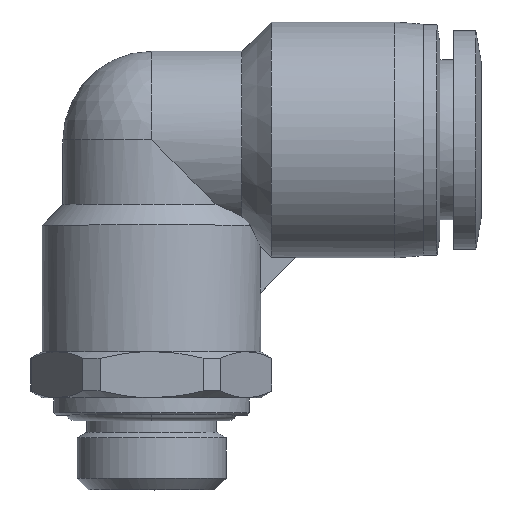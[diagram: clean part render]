
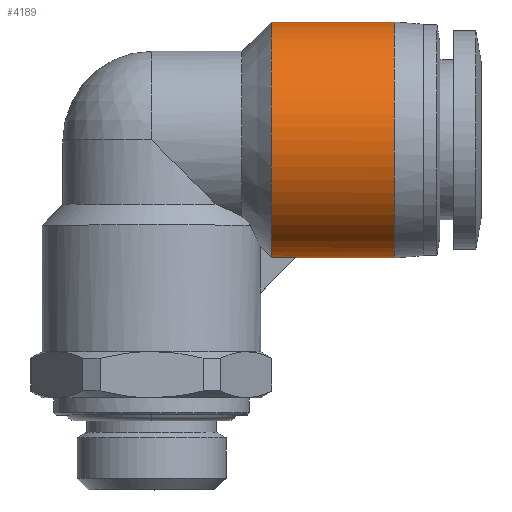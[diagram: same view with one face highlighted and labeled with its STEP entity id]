
A CAD part, top view. The second image highlights one B-rep face of the part: STEP entity #4189.
In plain terms, the highlighted cylindrical face has radius 10.25 mm (diameter 20.5 mm), a partial arc.
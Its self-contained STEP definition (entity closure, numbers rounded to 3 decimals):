
#178 = LINE ( 'NONE', #878, #3115 ) ;
#307 = CARTESIAN_POINT ( 'NONE',  ( 10.4, 8.199, 1. ) ) ;
#335 = CARTESIAN_POINT ( 'NONE',  ( 10.4, 9.898, 5.871 ) ) ;
#352 = CARTESIAN_POINT ( 'NONE',  ( 10.4, 26.719, 6.127 ) ) ;
#438 = FACE_OUTER_BOUND ( 'NONE', #2538, .T. ) ;
#565 = CARTESIAN_POINT ( 'NONE',  ( 21.1, 24.699, 8.197 ) ) ;
#625 = CARTESIAN_POINT ( 'NONE',  ( 10.4, 28.4, 2.6 ) ) ;
#707 = VERTEX_POINT ( 'NONE', #3924 ) ;
#727 = VERTEX_POINT ( 'NONE', #2043 ) ;
#859 = VERTEX_POINT ( 'NONE', #4524 ) ;
#878 = CARTESIAN_POINT ( 'NONE',  ( 15.75, 8.15, 0. ) ) ;
#1029 = CARTESIAN_POINT ( 'NONE',  ( 21.1, 8.15, 1.342 ) ) ;
#1055 = CARTESIAN_POINT ( 'NONE',  ( 10.4, 23.849, 8.779 ) ) ;
#1074 = CARTESIAN_POINT ( 'NONE',  ( 21.1, 8.417, 2.683 ) ) ;
#1141 = CARTESIAN_POINT ( 'NONE',  ( 10.4, 8.702, 3.563 ) ) ;
#1279 = CARTESIAN_POINT ( 'NONE',  ( 21.1, 21.083, 9.983 ) ) ;
#1299 = VERTEX_POINT ( 'NONE', #3517 ) ;
#1305 = CARTESIAN_POINT ( 'NONE',  ( 21.1, 10.203, 6.299 ) ) ;
#1384 = CARTESIAN_POINT ( 'NONE',  ( 10.4, 27.434, 5.014 ) ) ;
#1397 = CARTESIAN_POINT ( 'NONE',  ( 11.116, 8.199, 1. ) ) ;
#1408 = CARTESIAN_POINT ( 'NONE',  ( 10.4, 12.686, 8.609 ) ) ;
#1429 = CARTESIAN_POINT ( 'NONE',  ( 10.4, 21.485, 9.861 ) ) ;
#1451 = CARTESIAN_POINT ( 'NONE',  ( 10.4, 13.834, 9.268 ) ) ;
#1492 = CARTESIAN_POINT ( 'NONE',  ( 12.5, 8.15, 0.333 ) ) ;
#1543 = CYLINDRICAL_SURFACE ( 'NONE', #2458, 10.25 ) ;
#1613 = CARTESIAN_POINT ( 'NONE',  ( 21.1, 28.65, 1.342 ) ) ;
#1635 = CARTESIAN_POINT ( 'NONE',  ( 21.1, 28.383, 2.683 ) ) ;
#1659 = CARTESIAN_POINT ( 'NONE',  ( 21.1, 15.717, 9.983 ) ) ;
#1735 = CARTESIAN_POINT ( 'NONE',  ( 21.1, 8.15, 0. ) ) ;
#1753 = CARTESIAN_POINT ( 'NONE',  ( 10.4, 28.65, 0. ) ) ;
#1765 = CARTESIAN_POINT ( 'NONE',  ( 10.4, 16.292, 10.115 ) ) ;
#1769 = CARTESIAN_POINT ( 'NONE',  ( 15.75, 28.65, 0. ) ) ;
#1792 = CARTESIAN_POINT ( 'NONE',  ( 10.4, 8.326, 2.294 ) ) ;
#1821 = CARTESIAN_POINT ( 'NONE',  ( 11.833, 8.199, 1. ) ) ;
#1988 = EDGE_CURVE ( 'NONE', #2388, #1299, #2030, .T. ) ;
#2016 = EDGE_CURVE ( 'NONE', #727, #859, #2547, .T. ) ;
#2030 = B_SPLINE_CURVE_WITH_KNOTS ( 'NONE', 3,
 ( #3890, #4615, #625, #1384, #352, #4377, #1055, #1429, #3606, #3244, #1765, #1451, #1408, #3669, #335, #1141, #1792, #307 ),
 .UNSPECIFIED., .F., .F.,
 ( 4, 2, 2, 2, 2, 2, 2, 2, 4 ),
 ( 0.5, 0.563, 0.625, 0.688, 0.75, 0.813, 0.875, 0.938, 1. ),
 .UNSPECIFIED. ) ;
#2036 = ORIENTED_EDGE ( 'NONE', *, *, #2016, .F. ) ;
#2043 = CARTESIAN_POINT ( 'NONE',  ( 12.5, 8.15, 0. ) ) ;
#2133 = CARTESIAN_POINT ( 'NONE',  ( 12.5, 8.15, 0. ) ) ;
#2139 = VECTOR ( 'NONE', #4270, 1000. ) ;
#2388 = VERTEX_POINT ( 'NONE', #1753 ) ;
#2424 = EDGE_CURVE ( 'NONE', #859, #1299, #2619, .T. ) ;
#2458 = AXIS2_PLACEMENT_3D ( 'NONE', #2671, #3309, #3355 ) ;
#2493 = ORIENTED_EDGE ( 'NONE', *, *, #3090, .F. ) ;
#2538 = EDGE_LOOP ( 'NONE', ( #2036, #2650, #3230, #2493, #3790, #4557 ) ) ;
#2547 = B_SPLINE_CURVE_WITH_KNOTS ( 'NONE', 3,
 ( #2133, #1492, #4399, #3578 ),
 .UNSPECIFIED., .F., .F.,
 ( 4, 4 ),
 ( 0.5, 1. ),
 .UNSPECIFIED. ) ;
#2619 = B_SPLINE_CURVE_WITH_KNOTS ( 'NONE', 3,
 ( #4627, #1821, #1397, #3211 ),
 .UNSPECIFIED., .F., .F.,
 ( 4, 4 ),
 ( 0., 1. ),
 .UNSPECIFIED. ) ;
#2650 = ORIENTED_EDGE ( 'NONE', *, *, #3235, .T. ) ;
#2671 = CARTESIAN_POINT ( 'NONE',  ( 15.75, 18.4, 0. ) ) ;
#2721 = CARTESIAN_POINT ( 'NONE',  ( 21.1, 23.562, 8.956 ) ) ;
#2744 = CARTESIAN_POINT ( 'NONE',  ( 21.1, 19.742, 10.25 ) ) ;
#3056 = VERTEX_POINT ( 'NONE', #3559 ) ;
#3090 = EDGE_CURVE ( 'NONE', #2388, #707, #3584, .T. ) ;
#3115 = VECTOR ( 'NONE', #3785, 1000. ) ;
#3119 = CARTESIAN_POINT ( 'NONE',  ( 21.1, 13.238, 8.956 ) ) ;
#3211 = CARTESIAN_POINT ( 'NONE',  ( 10.4, 8.199, 1. ) ) ;
#3230 = ORIENTED_EDGE ( 'NONE', *, *, #3261, .F. ) ;
#3235 = EDGE_CURVE ( 'NONE', #727, #3056, #178, .T. ) ;
#3244 = CARTESIAN_POINT ( 'NONE',  ( 10.4, 17.602, 10.301 ) ) ;
#3261 = EDGE_CURVE ( 'NONE', #707, #3056, #3508, .T. ) ;
#3309 = DIRECTION ( 'NONE',  ( 1., 0., 0. ) ) ;
#3355 = DIRECTION ( 'NONE',  ( 0., 1., 0. ) ) ;
#3471 = CARTESIAN_POINT ( 'NONE',  ( 21.1, 17.058, 10.25 ) ) ;
#3508 = B_SPLINE_CURVE_WITH_KNOTS ( 'NONE', 3,
 ( #3833, #1613, #1635, #4539, #4513, #565, #2721, #1279, #2744, #3471, #1659, #3119, #4561, #1305, #4208, #1074, #1029, #1735 ),
 .UNSPECIFIED., .F., .F.,
 ( 4, 2, 2, 2, 2, 2, 2, 2, 4 ),
 ( 0., 0.062, 0.125, 0.187, 0.25, 0.312, 0.375, 0.437, 0.5 ),
 .UNSPECIFIED. ) ;
#3517 = CARTESIAN_POINT ( 'NONE',  ( 10.4, 8.199, 1. ) ) ;
#3559 = CARTESIAN_POINT ( 'NONE',  ( 21.1, 8.15, 0. ) ) ;
#3578 = CARTESIAN_POINT ( 'NONE',  ( 12.549, 8.199, 1. ) ) ;
#3584 = LINE ( 'NONE', #1769, #2139 ) ;
#3606 = CARTESIAN_POINT ( 'NONE',  ( 10.4, 20.199, 10.174 ) ) ;
#3669 = CARTESIAN_POINT ( 'NONE',  ( 10.4, 10.718, 6.91 ) ) ;
#3785 = DIRECTION ( 'NONE',  ( 1., 0., 0. ) ) ;
#3790 = ORIENTED_EDGE ( 'NONE', *, *, #1988, .T. ) ;
#3833 = CARTESIAN_POINT ( 'NONE',  ( 21.1, 28.65, 0. ) ) ;
#3890 = CARTESIAN_POINT ( 'NONE',  ( 10.4, 28.65, 0. ) ) ;
#3924 = CARTESIAN_POINT ( 'NONE',  ( 21.1, 28.65, 0. ) ) ;
#4189 = ADVANCED_FACE ( 'NONE', ( #438 ), #1543, .T. ) ;
#4208 = CARTESIAN_POINT ( 'NONE',  ( 21.1, 9.444, 5.162 ) ) ;
#4270 = DIRECTION ( 'NONE',  ( 1., 0., 0. ) ) ;
#4377 = CARTESIAN_POINT ( 'NONE',  ( 10.4, 24.926, 8.01 ) ) ;
#4399 = CARTESIAN_POINT ( 'NONE',  ( 12.516, 8.166, 0.667 ) ) ;
#4513 = CARTESIAN_POINT ( 'NONE',  ( 21.1, 26.597, 6.299 ) ) ;
#4524 = CARTESIAN_POINT ( 'NONE',  ( 12.549, 8.199, 1. ) ) ;
#4539 = CARTESIAN_POINT ( 'NONE',  ( 21.1, 27.356, 5.162 ) ) ;
#4557 = ORIENTED_EDGE ( 'NONE', *, *, #2424, .F. ) ;
#4561 = CARTESIAN_POINT ( 'NONE',  ( 21.1, 12.101, 8.197 ) ) ;
#4615 = CARTESIAN_POINT ( 'NONE',  ( 10.4, 28.65, 1.3 ) ) ;
#4627 = CARTESIAN_POINT ( 'NONE',  ( 12.549, 8.199, 1. ) ) ;
